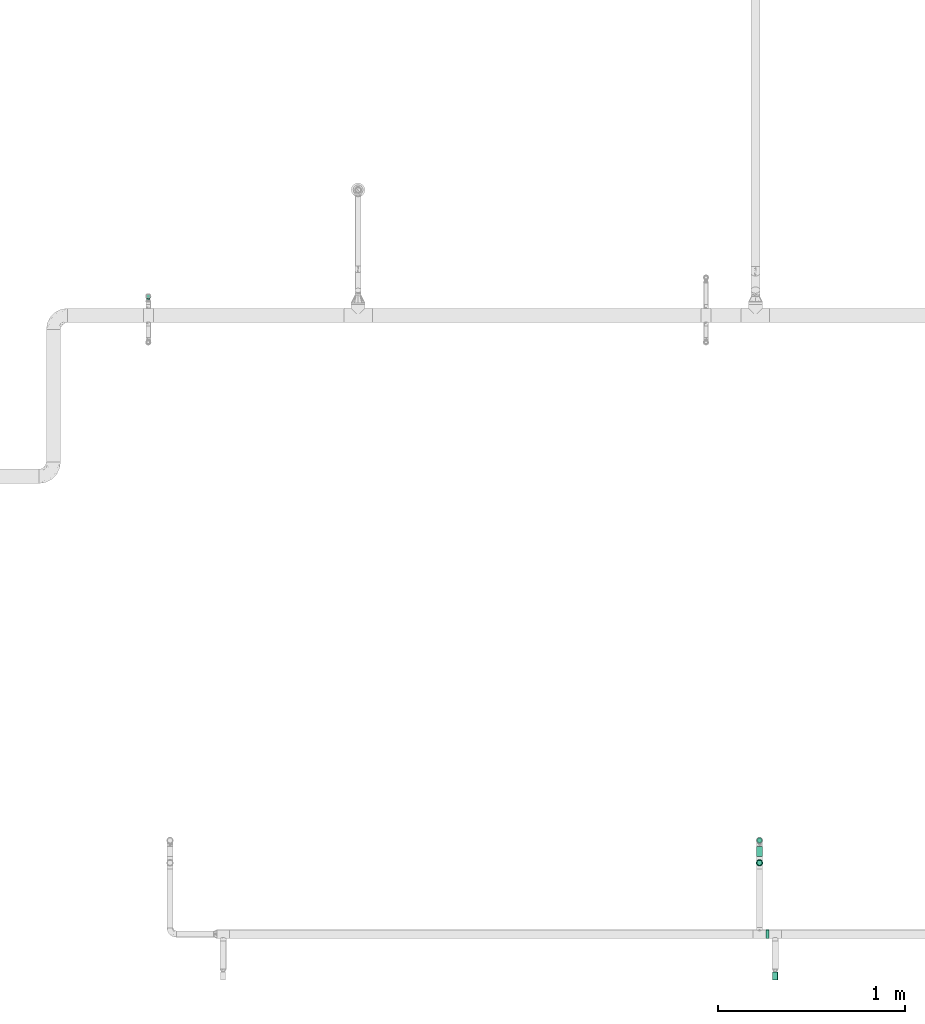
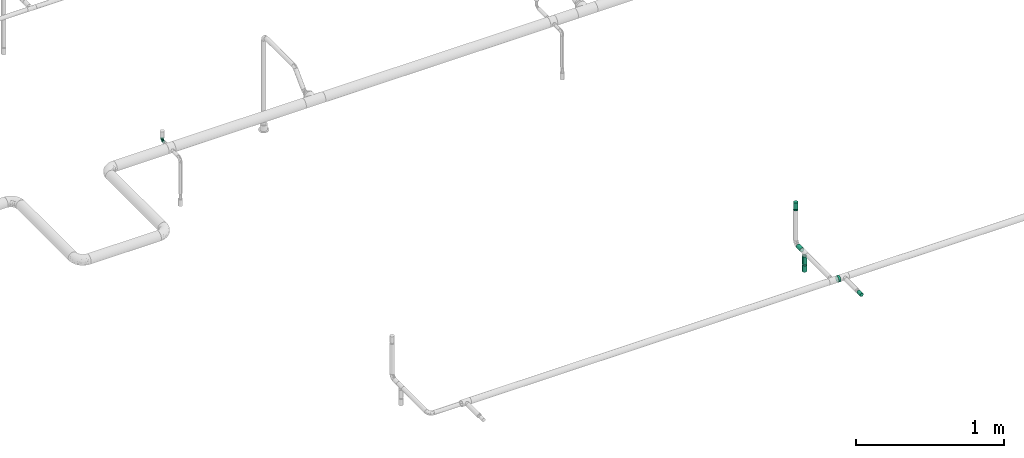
# One storey, part 23 of 51: 3 flow segments, 3 flow terminals, 2 flow fittings.
"""IFC2X3 building model written with IfcOpenShell, lengths in millimetres."""

from ifc_helpers import new_model, entity, si_unit, converted_unit, derived_unit, direction, frame, origin_with_axes, origin_2d_with_axis, place, context, subcontext, project, spatial, hollow_circle, extrude, open_shell, surface_model, source, transform, mapped, type_object, element, save


model = new_model("IFC2X3")

# Units and contexts
model_context = context("Model", 3, precision=0.01, world=frame((0.0, 4.29681676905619e-09, 0.0)), true_north=direction((4.01073788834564e-13, 1.0)))
plan_context = context("Plan", 3, precision=0.01, world=frame((0.0, 4.29681676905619e-09, 0.0)), true_north=direction((4.01073788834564e-13, 1.0)))
body_context = subcontext(model_context, "Body", "Model", "MODEL_VIEW")
ifc_project = project(units=[converted_unit("PLANEANGLEUNIT", "DEGREE", entity("IfcPositiveLengthMeasure", 0.0174532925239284), si_unit("PLANEANGLEUNIT", "RADIAN"), dimensions=[0, 0, 0, 0, 0, 0, 0]), si_unit("AREAUNIT", "SQUARE_METRE"), si_unit("LENGTHUNIT", "METRE", prefix="MILLI"), si_unit("MASSUNIT", "GRAM", prefix="KILO"), si_unit("POWERUNIT", "WATT"), si_unit("PRESSUREUNIT", "PASCAL"), si_unit("FORCEUNIT", "NEWTON", prefix="KILO"), si_unit("ELECTRICVOLTAGEUNIT", "VOLT"), si_unit("ELECTRICCURRENTUNIT", "AMPERE"), si_unit("THERMODYNAMICTEMPERATUREUNIT", "DEGREE_CELSIUS"), si_unit("TIMEUNIT", "SECOND"), si_unit("VOLUMEUNIT", "CUBIC_METRE"), derived_unit("LINEARVELOCITYUNIT", [(si_unit("LENGTHUNIT", "METRE"), 1), (si_unit("TIMEUNIT", "SECOND"), -1)]), derived_unit("VOLUMETRICFLOWRATEUNIT", [(si_unit("VOLUMEUNIT", "CUBIC_METRE"), 1), (si_unit("TIMEUNIT", "SECOND"), -1)]), derived_unit("THERMALTRANSMITTANCEUNIT", [(si_unit("POWERUNIT", "WATT"), 1), (si_unit("THERMODYNAMICTEMPERATUREUNIT", "KELVIN"), -1), (si_unit("AREAUNIT", "SQUARE_METRE"), -1)]), derived_unit("SOUNDPRESSUREUNIT", [(si_unit("PRESSUREUNIT", "PASCAL"), 1)])], contexts=[model_context, plan_context])

# Site, building, storey
site_placement = place(None, frame((0.0, -4.29681676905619e-09, 0.0), z_axis=(0.0, 0.0, 1.0), x_axis=(1.0, 0.0, 0.0)))
site = spatial("IfcSite", under=ifc_project, at=site_placement, Name="ENGM", CompositionType="ELEMENT")
building_placement = place(site_placement, frame((0.0, 4.29681676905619e-09, 0.0), z_axis=(0.0, 0.0, 1.0), x_axis=(1.0, 0.0, 0.0)))
building = spatial("IfcBuilding", under=site, at=building_placement, Name="TH", CompositionType="ELEMENT")
storey_placement = place(building_placement, frame((0.0, 0.0, 210200.0), z_axis=(0.0, 0.0, 1.0), x_axis=(1.0, 0.0, 0.0)))
storey = spatial("IfcBuildingStorey", under=building, at=storey_placement, Name="Nivå F - 0,7 m", CompositionType="ELEMENT", Elevation=210200.0)

# Flow fittings
pipe_fitting_type_1 = type_object("IfcPipeFittingType", Name="magi_pipe_fe_reducer_centric_short_NOR", PredefinedType="TRANSITION")
shared_shape_1 = source(origin_with_axes(), body_context, "Body", "SurfaceModel", [
    surface_model("IfcShellBasedSurfaceModel", [(14.4, 5.35, -9.26647), (14.4, 0.0, -10.7), (14.4, 2.76936, -10.33541), (14.4, 10.33541, -2.76936), (14.4, 7.56604, -7.56604), (14.4, 9.26647, -5.35), (14.4, -5.35, -9.26647), (14.4, -2.76936, -10.33541), (14.4, -7.56604, -7.56604), (14.4, -10.33541, -2.76936), (14.4, -9.26647, -5.35), (14.4, 10.33541, 2.76936), (14.4, 9.26647, 5.35), (14.4, 7.56604, 7.56604), (14.4, 2.76936, 10.33541), (14.4, 5.35, 9.26647), (14.4, -7.56604, 7.56604), (14.4, -2.76936, 10.33541), (14.4, -5.35, 9.26647), (12.4, 7.56604, 7.56604), (12.4, 9.26647, 5.35), (12.4, 10.33541, 2.76936), (12.4, -2.76936, 10.33541), (12.4, -7.56604, 7.56604), (12.4, -5.35, 9.26647), (12.4, -10.33541, 2.76936), (12.4, -9.26647, 5.35), (12.4, 0.0, 10.7), (12.4, -10.33541, -2.76936), (12.4, -10.7, 0.0), (12.4, -5.35, -9.26647), (12.4, 0.0, -10.7), (12.4, -2.76936, -10.33541), (12.4, 2.76936, -10.33541), (12.4, 10.33541, -2.76936), (12.4, 10.7, 0.0), (12.4, -9.26647, -5.35), (12.4, -7.56604, -7.56604), (14.4, -10.7, 0.0), (12.4, 5.35, -9.26647), (12.4, 7.56604, -7.56604), (12.4, 9.26647, -5.35), (14.4, 10.7, 0.0), (12.4, 5.35, 9.26647), (12.4, 2.76936, 10.33541), (14.4, 0.0, 10.7), (14.4, -9.26647, 5.35), (14.4, -10.33541, 2.76936), (-2.0, 11.9501, 11.9501), (-2.0, 0.0, 16.9), (-2.0, 4.37404, 16.32415), (-2.0, 8.45, 14.63583), (-2.0, 14.63583, 8.45), (-2.0, 16.32415, 4.37404), (-2.0, -16.32415, 4.37404), (-2.0, -8.45, 14.63583), (-2.0, -14.63583, 8.45), (-2.0, -11.9501, 11.9501), (-2.0, -4.37404, 16.32415), (-2.0, -16.32415, -4.37404), (-2.0, -16.9, 0.0), (-2.0, -8.45, -14.63583), (-2.0, 16.32415, -4.37404), (-2.0, 11.9501, -11.9501), (-2.0, 14.63583, -8.45), (-2.0, 8.45, -14.63583), (-2.0, 4.37404, -16.32415), (-2.0, 0.0, -16.9), (-2.0, -11.9501, -11.9501), (-2.0, -14.63583, -8.45), (-2.0, -4.37404, -16.32415), (-2.0, 16.9, 0.0), (0.0, 4.37404, -16.32415), (0.0, 8.45, -14.63583), (0.0, 11.9501, -11.9501), (0.0, 0.0, -16.9), (0.0, 16.32415, -4.37404), (0.0, 16.32415, 4.37404), (0.0, 14.63583, -8.45), (0.0, -8.45, -14.63583), (0.0, -4.37404, -16.32415), (0.0, -11.9501, -11.9501), (0.0, -16.32415, -4.37404), (0.0, -14.63583, -8.45), (0.0, -16.32415, 4.37404), (0.0, 16.9, 0.0), (0.0, 14.63583, 8.45), (0.0, 11.9501, 11.9501), (0.0, 4.37404, 16.32415), (0.0, 8.45, 14.63583), (0.0, 0.0, 16.9), (0.0, -14.63583, 8.45), (0.0, -16.9, 0.0), (0.0, -8.45, 14.63583), (0.0, -11.9501, 11.9501), (0.0, -4.37404, 16.32415), (12.4, 9.3625, -2.31662), (0.0, 14.42505, -5.97505), (0.0, 15.66253, -2.98753), (12.4, -6.6875, -6.94985), (0.0, -13.18758, -8.96258), (0.0, 2.98753, -15.66253), (12.4, 0.0, -9.26647), (12.4, 6.6875, -6.94985), (0.0, 8.96258, -13.18758), (12.4, -9.3625, -2.31662), (0.0, -15.66253, -2.98753), (0.0, -14.42505, -5.97505), (0.0, 5.97505, -14.42505), (0.0, -2.98753, -15.66253), (0.0, -8.96258, -13.18758), (0.0, 13.18758, -8.96258), (12.4, 8.025, -4.63324), (12.4, -2.675, -9.26647), (12.4, 2.675, -9.26647), (0.0, -5.97505, -14.42505), (12.4, -8.025, -4.63324), (12.4, -9.3625, 2.31662), (0.0, -14.42505, 5.97505), (0.0, -15.66253, 2.98753), (12.4, 6.6875, 6.94985), (0.0, 13.18758, 8.96258), (0.0, -2.98753, 15.66253), (12.4, 0.0, 9.26647), (12.4, -6.6875, 6.94985), (0.0, -8.96258, 13.18758), (12.4, 9.3625, 2.31662), (0.0, 15.66253, 2.98753), (0.0, 14.42505, 5.97505), (0.0, -5.97505, 14.42505), (0.0, 2.98753, 15.66253), (0.0, 8.96258, 13.18758), (0.0, -13.18758, 8.96258), (12.4, -8.025, 4.63324), (12.4, 2.675, 9.26647), (12.4, -2.675, 9.26647), (0.0, 5.97505, 14.42505), (12.4, 8.025, 4.63324)], [open_shell([[[0, 1, 2]], [[3, 0, 4]], [[3, 4, 5]], [[1, 6, 7]], [[1, 0, 6]], [[8, 9, 10]], [[9, 8, 6]], [[11, 12, 13]], [[14, 13, 15]], [[16, 17, 18]], [[19, 20, 21]], [[22, 23, 24]], [[23, 22, 25]], [[23, 25, 26]], [[22, 27, 25]], [[25, 28, 29]], [[30, 31, 32]], [[30, 28, 33]], [[33, 31, 30]], [[34, 21, 35]], [[28, 9, 29]], [[36, 10, 28]], [[6, 37, 30]], [[36, 37, 8]], [[7, 30, 32]], [[28, 10, 9]], [[9, 38, 29]], [[7, 6, 30]], [[8, 37, 6]], [[8, 10, 36]], [[1, 7, 32]], [[32, 31, 1]], [[33, 2, 31]], [[39, 0, 33]], [[5, 40, 41]], [[39, 40, 4]], [[3, 41, 34]], [[39, 4, 0]], [[0, 2, 33]], [[42, 3, 34]], [[5, 41, 3]], [[5, 4, 40]], [[35, 42, 34]], [[31, 2, 1]], [[21, 11, 35]], [[20, 12, 21]], [[15, 19, 43]], [[20, 19, 13]], [[14, 43, 44]], [[21, 12, 11]], [[11, 42, 35]], [[14, 15, 43]], [[13, 19, 15]], [[13, 12, 20]], [[45, 14, 44]], [[44, 27, 45]], [[22, 17, 27]], [[24, 18, 22]], [[46, 23, 26]], [[24, 23, 16]], [[47, 26, 25]], [[24, 16, 18]], [[18, 17, 22]], [[38, 47, 25]], [[46, 26, 47]], [[46, 16, 23]], [[29, 38, 25]], [[27, 17, 45]], [[48, 49, 50]], [[48, 50, 51]], [[48, 52, 53]], [[48, 53, 49]], [[49, 53, 54]], [[55, 56, 57]], [[55, 58, 49]], [[56, 55, 49]], [[49, 54, 56]], [[54, 59, 60]], [[54, 53, 61]], [[53, 62, 63]], [[63, 62, 64]], [[63, 65, 66]], [[61, 53, 63]], [[67, 63, 66]], [[59, 68, 69]], [[68, 59, 61]], [[61, 67, 70]], [[59, 54, 61]], [[63, 67, 61]], [[53, 71, 62]], [[72, 73, 74]], [[75, 72, 74]], [[74, 76, 77]], [[76, 74, 78]], [[74, 77, 79]], [[75, 79, 80]], [[75, 74, 79]], [[81, 82, 83]], [[82, 81, 79]], [[79, 84, 82]], [[77, 76, 85]], [[77, 86, 87]], [[77, 87, 88]], [[88, 84, 79]], [[88, 87, 89]], [[84, 88, 90]], [[90, 91, 84]], [[92, 82, 84]], [[91, 93, 94]], [[91, 90, 93]], [[93, 90, 95]], [[79, 77, 88]], [[59, 82, 60]], [[69, 83, 59]], [[79, 68, 61]], [[69, 68, 81]], [[80, 61, 70]], [[59, 83, 82]], [[82, 92, 60]], [[80, 79, 61]], [[81, 68, 79]], [[81, 83, 69]], [[75, 80, 70]], [[70, 67, 75]], [[66, 72, 67]], [[65, 73, 66]], [[78, 63, 64]], [[65, 63, 74]], [[76, 64, 62]], [[65, 74, 73]], [[73, 72, 66]], [[85, 76, 62]], [[78, 64, 76]], [[78, 74, 63]], [[71, 85, 62]], [[67, 72, 75]], [[53, 77, 71]], [[52, 86, 53]], [[89, 48, 51]], [[52, 48, 87]], [[88, 51, 50]], [[53, 86, 77]], [[77, 85, 71]], [[88, 89, 51]], [[87, 48, 89]], [[87, 86, 52]], [[90, 88, 50]], [[50, 49, 90]], [[58, 95, 49]], [[55, 93, 58]], [[91, 57, 56]], [[55, 57, 94]], [[84, 56, 54]], [[55, 94, 93]], [[93, 95, 58]], [[92, 84, 54]], [[91, 56, 84]], [[91, 94, 57]], [[60, 92, 54]], [[49, 95, 90]], [[43, 24, 35]], [[35, 24, 30]], [[30, 39, 35]], [[30, 24, 29]], [[87, 74, 92]], [[75, 92, 74]], [[81, 92, 75]], [[74, 87, 85]], [[96, 97, 98]], [[81, 99, 100]], [[101, 102, 75]], [[98, 85, 35]], [[74, 103, 104]], [[104, 103, 39]], [[105, 106, 107]], [[39, 108, 104]], [[102, 109, 75]], [[110, 99, 81]], [[35, 96, 98]], [[103, 111, 112]], [[109, 102, 113]], [[29, 92, 106]], [[102, 101, 114]], [[110, 115, 30]], [[96, 112, 97]], [[107, 116, 105]], [[29, 106, 105]], [[113, 115, 109]], [[30, 115, 113]], [[116, 107, 100]], [[108, 39, 114]], [[111, 103, 74]], [[111, 97, 112]], [[99, 110, 30]], [[116, 100, 99]], [[101, 108, 114]], [[117, 118, 119]], [[87, 120, 121]], [[122, 123, 90]], [[119, 92, 29]], [[94, 124, 125]], [[125, 124, 24]], [[126, 127, 128]], [[24, 129, 125]], [[123, 130, 90]], [[131, 120, 87]], [[29, 117, 119]], [[124, 132, 133]], [[130, 123, 134]], [[35, 85, 127]], [[123, 122, 135]], [[131, 136, 43]], [[117, 133, 118]], [[128, 137, 126]], [[35, 127, 126]], [[134, 136, 130]], [[43, 136, 134]], [[137, 128, 121]], [[129, 24, 135]], [[132, 124, 94]], [[132, 118, 133]], [[120, 131, 43]], [[137, 121, 120]], [[122, 129, 135]], [[6, 0, 3]], [[46, 6, 3]], [[6, 46, 9]], [[11, 3, 42]], [[3, 13, 46]], [[14, 45, 13]], [[46, 13, 45]], [[9, 47, 38]], [[46, 47, 9]], [[17, 16, 46]], [[45, 17, 46]], [[3, 11, 13]], [[27, 44, 43]], [[27, 43, 19]], [[27, 19, 25]], [[34, 25, 19]], [[34, 19, 21]], [[28, 25, 34]], [[33, 34, 41]], [[40, 39, 33]], [[40, 33, 41]], [[28, 34, 33]], [[28, 37, 36]], [[37, 28, 30]], [[90, 87, 92]], [[92, 94, 90]]])]),
])
flow_fitting_1_placement = place(storey_placement, frame((903366.02472, 481524.00985, 2982.64799999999), z_axis=(0.0, 1.0, 0.0), x_axis=(0.0, 0.0, 1.0)))
element("IfcFlowFitting", 1, at=flow_fitting_1_placement, inside=storey, type_object=pipe_fitting_type_1, Name="magi_pipe_fe_reducer_centric_short_NOR", context=body_context, shape_type="MappedRepresentation", body=[
    mapped(shared_shape_1, transform((0.0, 0.0, 0.0), scale=1.0)),
])
pipe_fitting_type_2 = type_object("IfcPipeFittingType", Name="magi_pipe_fe_elbow_short_001", PredefinedType="BEND")
shared_shape_2 = source(origin_with_axes(), body_context, "Body", "SurfaceModel", [
    surface_model("IfcShellBasedSurfaceModel", [(-21.4, 2.76936, -10.33541), (-21.4, 0.0, -10.7), (-21.4, 7.56604, -7.56604), (-21.4, 5.35, -9.26647), (-21.4, 10.33541, -2.76936), (-21.4, 9.26647, -5.35), (-21.4, -7.56604, 7.56604), (-21.4, -5.35, -9.26647), (-21.4, -5.35, 9.26647), (-21.4, -7.56604, -7.56604), (-21.4, -9.26647, -5.35), (-21.4, -2.76936, -10.33541), (-21.4, -10.33541, -2.76936), (-21.4, -10.7, 0.0), (-21.4, 10.7, 0.0), (-21.4, 10.33541, 2.76936), (-21.4, 9.26647, 5.35), (-21.4, 7.56604, 7.56604), (-21.4, 5.35, 9.26647), (-21.4, 2.76936, 10.33541), (-21.4, -10.33541, 2.76936), (-21.4, -9.26647, 5.35), (-21.4, -2.76936, 10.33541), (-21.4, 0.0, 10.7), (-7.56604, 21.4, -7.56604), (0.0, 21.4, -10.7), (-2.76936, 21.4, -10.33541), (-5.35, 21.4, -9.26647), (-9.26647, 21.4, -5.35), (-10.33541, 21.4, -2.76936), (10.7, 21.4, 0.0), (5.35, 21.4, -9.26647), (9.26647, 21.4, -5.35), (7.56604, 21.4, -7.56604), (2.76936, 21.4, -10.33541), (10.33541, 21.4, -2.76936), (-10.33541, 21.4, 2.76936), (5.35, 21.4, 9.26647), (-7.56604, 21.4, 7.56604), (-9.26647, 21.4, 5.35), (-5.35, 21.4, 9.26647), (-2.76936, 21.4, 10.33541), (9.26647, 21.4, 5.35), (10.33541, 21.4, 2.76936), (7.56604, 21.4, 7.56604), (0.0, 21.4, 10.7), (2.76936, 21.4, 10.33541), (-10.7, 21.4, 0.0), (-17.99408, -9.78739, 0.0), (-9.96908, -7.6371, 0.0), (-9.09404, -6.9243, 4.95785), (-14.48689, -7.04149, 7.24979), (5.63065, 8.24892, 6.28438), (2.06258, 3.09852, 6.68299), (3.46206, 2.41265, 0.0), (0.98571, 10.3211, 10.08431), (-14.58817, -8.87478, 0.0), (5.00363, 14.04705, 8.8538), (-11.43216, -3.30045, 9.33143), (7.6371, 9.96908, 0.0), (8.87478, 14.58817, 0.0), (-7.84024, 13.84213, 8.94205), (-3.62699, 16.02976, 10.31804), (-15.33449, 3.33478, 10.44017), (-7.99137, -0.64527, 9.75219), (-12.26698, 17.61698, 0.0), (-13.83396, 13.83396, 0.0), (-5.22925, -4.43288, 5.66596), (6.39942, 5.35, 0.0), (-15.15468, 10.16047, 6.44408), (-10.16467, 10.01422, 9.23503), (9.78739, 17.99408, 0.0), (-7.22951, 3.98894, 10.64848), (-2.16379, -1.00373, 6.95774), (0.52471, -0.52471, 0.0), (-2.94157, 6.97816, 10.50675), (-17.61698, 12.26698, 0.0), (-2.41265, -3.46206, 0.0), (-5.35, -6.39942, 0.0), (-8.83498, -0.07405, -10.11828), (-2.16379, -1.00373, -6.95774), (-5.8406, -4.06158, -6.57779), (-7.84024, 13.84213, -8.94205), (-15.33449, 3.33478, -10.44017), (-11.43216, -3.30045, -9.33143), (-15.15468, 10.16047, -6.44408), (-7.22951, 3.98894, -10.64848), (-10.16467, 10.01422, -9.23503), (2.06258, 3.09852, -6.68299), (-2.94157, 6.97816, -10.50675), (-14.48689, -7.04149, -7.24979), (5.00363, 14.04705, -8.8538), (-3.62699, 16.02976, -10.31804), (0.98571, 10.3211, -10.08431), (5.63065, 8.24892, -6.28438), (-9.09404, -6.9243, -4.95785)], [open_shell([[[0, 1, 2]], [[3, 0, 2]], [[4, 5, 2]], [[6, 1, 7]], [[1, 8, 2]], [[9, 10, 7]], [[1, 11, 7]], [[12, 13, 10]], [[7, 10, 13]], [[13, 6, 7]], [[4, 2, 14]], [[8, 15, 2]], [[16, 15, 17]], [[8, 18, 15]], [[17, 15, 18]], [[18, 8, 19]], [[20, 21, 13]], [[13, 21, 6]], [[22, 23, 8]], [[6, 8, 1]], [[8, 23, 19]], [[15, 14, 2]], [[24, 25, 26]], [[24, 26, 27]], [[24, 28, 29]], [[24, 29, 25]], [[25, 29, 30]], [[31, 32, 33]], [[31, 34, 25]], [[32, 30, 35]], [[30, 32, 31]], [[25, 30, 31]], [[29, 36, 30]], [[30, 36, 37]], [[38, 36, 39]], [[36, 40, 37]], [[40, 36, 38]], [[41, 37, 40]], [[30, 42, 43]], [[44, 42, 30]], [[37, 45, 46]], [[30, 37, 44]], [[41, 45, 37]], [[29, 47, 36]], [[21, 20, 48]], [[49, 50, 51]], [[52, 53, 54]], [[52, 55, 53]], [[51, 6, 56]], [[6, 21, 56]], [[41, 57, 45]], [[23, 51, 58]], [[51, 22, 8]], [[57, 59, 60]], [[61, 55, 62]], [[63, 58, 64]], [[65, 66, 61]], [[51, 23, 22]], [[23, 58, 19]], [[67, 58, 50]], [[54, 68, 52]], [[63, 17, 18]], [[20, 13, 48]], [[14, 15, 69]], [[16, 17, 63]], [[62, 40, 38]], [[19, 58, 63]], [[16, 69, 15]], [[63, 18, 19]], [[59, 52, 68]], [[60, 44, 37]], [[57, 46, 45]], [[69, 70, 66]], [[52, 59, 57]], [[39, 62, 38]], [[60, 42, 44]], [[37, 57, 60]], [[37, 46, 57]], [[6, 51, 8]], [[43, 71, 30]], [[51, 56, 49]], [[70, 69, 72]], [[73, 74, 53]], [[75, 72, 73]], [[16, 63, 69]], [[47, 65, 36]], [[42, 71, 43]], [[55, 57, 62]], [[52, 57, 55]], [[41, 40, 62]], [[60, 71, 42]], [[36, 61, 39]], [[48, 56, 21]], [[61, 62, 39]], [[62, 57, 41]], [[69, 63, 72]], [[53, 75, 73]], [[69, 66, 76]], [[67, 64, 58]], [[75, 53, 55]], [[67, 77, 73]], [[55, 61, 75]], [[70, 75, 61]], [[50, 49, 78]], [[67, 50, 78]], [[51, 50, 58]], [[77, 74, 73]], [[73, 72, 64]], [[67, 78, 77]], [[73, 64, 67]], [[63, 64, 72]], [[36, 65, 61]], [[75, 70, 72]], [[14, 69, 76]], [[66, 70, 61]], [[53, 74, 54]], [[79, 80, 81]], [[65, 29, 82]], [[3, 2, 83]], [[0, 84, 1]], [[4, 14, 85]], [[10, 48, 12]], [[83, 5, 85]], [[85, 5, 4]], [[86, 85, 87]], [[83, 86, 79]], [[83, 84, 0]], [[48, 13, 12]], [[80, 77, 81]], [[88, 80, 89]], [[10, 9, 56]], [[7, 11, 90]], [[91, 31, 60]], [[9, 7, 90]], [[90, 11, 1]], [[84, 90, 1]], [[9, 90, 56]], [[28, 92, 82]], [[5, 83, 2]], [[85, 14, 76]], [[80, 88, 74]], [[82, 66, 65]], [[93, 82, 92]], [[28, 82, 29]], [[28, 24, 92]], [[24, 27, 92]], [[71, 60, 32]], [[91, 92, 26]], [[56, 48, 10]], [[35, 30, 71]], [[27, 26, 92]], [[94, 88, 93]], [[25, 91, 26]], [[31, 91, 34]], [[83, 0, 3]], [[94, 93, 91]], [[33, 60, 31]], [[89, 93, 88]], [[34, 91, 25]], [[71, 32, 35]], [[92, 91, 93]], [[59, 91, 60]], [[86, 83, 85]], [[95, 78, 49]], [[33, 32, 60]], [[66, 87, 85]], [[94, 59, 68]], [[89, 80, 86]], [[49, 56, 90]], [[94, 54, 88]], [[59, 94, 91]], [[95, 90, 84]], [[87, 89, 86]], [[82, 93, 89]], [[81, 78, 95]], [[90, 95, 49]], [[81, 95, 84]], [[79, 81, 84]], [[82, 87, 66]], [[83, 79, 84]], [[80, 79, 86]], [[77, 80, 74]], [[77, 78, 81]], [[47, 29, 65]], [[76, 66, 85]], [[89, 87, 82]], [[54, 94, 68]], [[54, 74, 88]]])]),
])
flow_fitting_2_placement = place(storey_placement, frame((900100.0, 484431.46933, 2933.0), z_axis=(-1.0, 0.0, 0.0), x_axis=(0.0, 0.0, -1.0)))
element("IfcFlowFitting", 2, at=flow_fitting_2_placement, inside=storey, type_object=pipe_fitting_type_2, Name="magi_pipe_fe_elbow_short_001", context=body_context, shape_type="MappedRepresentation", body=[
    mapped(shared_shape_2, transform((0.0, 0.0, 0.0), scale=1.0)),
])

# Flow segments
pipe_segment_type = type_object("IfcPipeSegmentType", Name="Stålrør normaltykke", PredefinedType="RIGIDSEGMENT")
shared_shape_3 = source(origin_with_axes(), body_context, "Body", "SweptSolid", [
    extrude(hollow_circle(Radius=24.1, WallThickness=2.0, at=origin_2d_with_axis()), frame((0.0, 0.0, 0.0), z_axis=(1.0, 0.0, 0.0), x_axis=(0.0, 1.0, 0.0)), (0.0, 0.0, 1.0), 16.2),
])
flow_segment_1_placement = place(storey_placement, frame((903399.82472, 481023.05237, 2700.0), z_axis=(0.0, 0.0, 1.0), x_axis=(1.0, 0.0, 0.0)))
element("IfcFlowSegment", 3, at=flow_segment_1_placement, inside=storey, type_object=pipe_segment_type, Name="Stålrør normaltykke", context=body_context, shape_type="MappedRepresentation", body=[
    mapped(shared_shape_3, transform((0.0, 0.0, 0.0), scale=1.0)),
])
shared_shape_4 = source(origin_with_axes(), body_context, "Body", "SweptSolid", [
    extrude(hollow_circle(Radius=16.9, WallThickness=2.0, at=origin_2d_with_axis()), frame((0.0, 0.0, 0.0), z_axis=(1.0, 0.0, 0.0), x_axis=(0.0, 1.0, 0.0)), (0.0, 0.0, 1.0), 65.3),
])
flow_segment_2_placement = place(storey_placement, frame((903366.02472, 481404.39138, 2609.35200000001), z_axis=(0.0, -1.0, 0.0), x_axis=(0.0, 0.0, 1.0)))
element("IfcFlowSegment", 4, at=flow_segment_2_placement, inside=storey, type_object=pipe_segment_type, Name="Stålrør normaltykke", context=body_context, shape_type="MappedRepresentation", body=[
    mapped(shared_shape_4, transform((0.0, 0.0, 0.0), scale=1.0)),
])
shared_shape_5 = source(origin_with_axes(), body_context, "Body", "SweptSolid", [
    extrude(hollow_circle(Radius=16.9, WallThickness=2.0, at=origin_2d_with_axis()), frame((0.0, 0.0, 0.0), z_axis=(1.0, 0.0, 0.0), x_axis=(0.0, 1.0, 0.0)), (0.0, 0.0, 1.0), 52.0),
])
flow_segment_3_placement = place(storey_placement, frame((903366.02472, 481438.19138, 2700.0), z_axis=(0.0, 0.0, 1.0), x_axis=(0.0, 1.0, 0.0)))
element("IfcFlowSegment", 5, at=flow_segment_3_placement, inside=storey, type_object=pipe_segment_type, Name="Stålrør normaltykke", context=body_context, shape_type="MappedRepresentation", body=[
    mapped(shared_shape_5, transform((0.0, 0.0, 0.0), scale=1.0)),
])

# Flow terminals
fire_suppression_terminal_type_1 = type_object("IfcFireSuppressionTerminalType", Name="SP-15-K80-68DGR-STD-STÅENDE", PredefinedType="NOTDEFINED")
shared_shape_6 = source(origin_with_axes(), body_context, "Body", "SurfaceModel", [
    surface_model("IfcShellBasedSurfaceModel", [(4.1411, -15.45481, 53.0), (8.0, -13.85641, 53.0), (11.31371, -11.31371, 53.0), (-8.0, -13.85641, 53.0), (15.45481, -4.1411, 53.0), (16.0, 0.0, 53.0), (13.85641, -8.0, 53.0), (0.0, -16.0, 53.0), (-4.1411, -15.45481, 53.0), (-13.85641, -8.0, 53.0), (-11.31371, -11.31371, 53.0), (-15.45481, -4.1411, 53.0), (15.45481, 4.1411, 53.0), (13.85641, 8.0, 53.0), (11.31371, 11.31371, 53.0), (-4.1411, 15.45481, 53.0), (8.0, 13.85641, 53.0), (4.1411, 15.45481, 53.0), (0.0, 16.0, 53.0), (-13.85641, 8.0, 53.0), (-15.45481, 4.1411, 53.0), (-16.0, 0.0, 53.0), (-11.31371, 11.31371, 53.0), (-8.0, 13.85641, 53.0), (0.0, 16.0, 0.0), (4.1411, 15.45481, 0.0), (8.0, 13.85641, 0.0), (-4.1411, 15.45481, 0.0), (11.31371, 11.31371, 0.0), (13.85641, 8.0, 0.0), (15.45481, 4.1411, 0.0), (-15.45481, -4.1411, 0.0), (-11.31371, 11.31371, 0.0), (-8.0, 13.85641, 0.0), (-13.85641, 8.0, 0.0), (-15.45481, 4.1411, 0.0), (-16.0, 0.0, 0.0), (4.1411, -15.45481, 0.0), (16.0, 0.0, 0.0), (15.45481, -4.1411, 0.0), (13.85641, -8.0, 0.0), (11.31371, -11.31371, 0.0), (8.0, -13.85641, 0.0), (-8.0, -13.85641, 0.0), (-13.85641, -8.0, 0.0), (-11.31371, -11.31371, 0.0), (0.0, -16.0, 0.0), (-4.1411, -15.45481, 0.0)], [open_shell([[[0, 1, 2]], [[3, 0, 2]], [[4, 5, 2]], [[4, 2, 6]], [[3, 2, 5]], [[7, 3, 8]], [[7, 0, 3]], [[3, 9, 10]], [[9, 3, 11]], [[5, 11, 3]], [[5, 12, 11]], [[12, 13, 14]], [[15, 12, 14]], [[16, 17, 18]], [[14, 16, 15]], [[18, 15, 16]], [[11, 19, 20]], [[21, 11, 20]], [[22, 15, 23]], [[15, 22, 19]], [[19, 11, 15]], [[11, 12, 15]], [[24, 25, 26]], [[27, 24, 26]], [[28, 29, 30]], [[27, 26, 28]], [[27, 28, 31]], [[27, 32, 33]], [[32, 27, 34]], [[34, 31, 35]], [[31, 34, 27]], [[35, 31, 36]], [[28, 30, 31]], [[37, 38, 39]], [[37, 39, 40]], [[41, 42, 37]], [[41, 37, 40]], [[38, 37, 43]], [[44, 43, 45]], [[43, 44, 31]], [[43, 46, 47]], [[43, 31, 38]], [[37, 46, 43]], [[38, 31, 30]], [[11, 31, 44]], [[45, 9, 44]], [[3, 43, 47]], [[45, 43, 10]], [[8, 47, 46]], [[31, 21, 36]], [[31, 11, 21]], [[44, 9, 11]], [[45, 10, 9]], [[3, 10, 43]], [[47, 8, 3]], [[46, 7, 8]], [[0, 37, 42]], [[41, 1, 42]], [[6, 40, 39]], [[41, 40, 2]], [[4, 39, 38]], [[37, 0, 7]], [[42, 1, 0]], [[41, 2, 1]], [[40, 6, 2]], [[4, 6, 39]], [[38, 5, 4]], [[37, 7, 46]], [[12, 38, 30]], [[13, 30, 29]], [[16, 26, 25]], [[17, 25, 24]], [[30, 13, 12]], [[12, 5, 38]], [[28, 14, 13]], [[28, 26, 14]], [[14, 26, 16]], [[25, 17, 16]], [[28, 13, 29]], [[24, 18, 17]], [[15, 27, 33]], [[32, 23, 33]], [[19, 34, 35]], [[32, 34, 22]], [[20, 35, 36]], [[27, 15, 18]], [[33, 23, 15]], [[32, 22, 23]], [[34, 19, 22]], [[20, 19, 35]], [[36, 21, 20]], [[27, 18, 24]]])]),
])
flow_terminal_1_placement = place(storey_placement, frame((903366.02472, 481524.00985, 2992.0), z_axis=(0.0, 0.0, 1.0), x_axis=(1.0, 0.0, 0.0)))
element("IfcFlowTerminal", 6, at=flow_terminal_1_placement, inside=storey, type_object=fire_suppression_terminal_type_1, Name="SP-15-K80-68DGR-STD-STÅENDE", context=body_context, shape_type="MappedRepresentation", body=[
    mapped(shared_shape_6, transform((0.0, 0.0, 0.0), scale=1.0)),
])
fire_suppression_terminal_type_2 = type_object("IfcFireSuppressionTerminalType", Name="SP-15-K80-68DGR-STD-HIMLING", PredefinedType="NOTDEFINED")
flow_terminal_2_placement = place(storey_placement, frame((903366.02472, 481404.39138, 2600.0), z_axis=(0.0, 0.0, -1.0), x_axis=(-1.0, 0.0, 0.0)))
element("IfcFlowTerminal", 7, at=flow_terminal_2_placement, inside=storey, type_object=fire_suppression_terminal_type_2, Name="SP-15-K80-68DGR-STD-HIMLING", context=body_context, shape_type="MappedRepresentation", body=[
    mapped(shared_shape_6, transform((0.0, 0.0, 0.0), scale=1.0)),
])
fire_suppression_terminal_type_3 = type_object("IfcFireSuppressionTerminalType", Name="XW-15-K80-68DGR-QR", PredefinedType="NOTDEFINED")
shared_shape_7 = source(origin_with_axes(), body_context, "Body", "SurfaceModel", [
    surface_model("IfcShellBasedSurfaceModel", [(42.0, 3.62347, -13.52296), (42.0, 7.0, -12.12436), (42.0, 9.89949, -9.89949), (42.0, -13.52296, -3.62347), (42.0, 13.52296, -3.62347), (42.0, 12.12436, -7.0), (42.0, 13.52296, 3.62347), (42.0, 0.0, -14.0), (42.0, -7.0, -12.12436), (42.0, -3.62347, -13.52296), (42.0, -9.89949, -9.89949), (42.0, -12.12436, -7.0), (42.0, 14.0, 0.0), (42.0, 12.12436, 7.0), (42.0, 9.89949, 9.89949), (42.0, 7.0, 12.12436), (42.0, 3.62347, 13.52296), (42.0, 0.0, 14.0), (42.0, -3.62347, 13.52296), (42.0, -13.52296, 3.62347), (42.0, -14.0, 0.0), (42.0, -12.12436, 7.0), (42.0, -9.89949, 9.89949), (42.0, -7.0, 12.12436), (0.0, 0.0, 14.0), (0.0, 3.62347, 13.52296), (0.0, 7.0, 12.12436), (0.0, -3.62347, 13.52296), (0.0, 9.89949, 9.89949), (0.0, 12.12436, 7.0), (0.0, 13.52296, 3.62347), (0.0, -9.89949, 9.89949), (0.0, -7.0, 12.12436), (0.0, -12.12436, 7.0), (0.0, -13.52296, -3.62347), (0.0, -13.52296, 3.62347), (0.0, -14.0, 0.0), (0.0, 13.52296, -3.62347), (0.0, 9.89949, -9.89949), (0.0, 12.12436, -7.0), (0.0, 7.0, -12.12436), (0.0, 3.62347, -13.52296), (0.0, -9.89949, -9.89949), (0.0, -12.12436, -7.0), (0.0, -7.0, -12.12436), (0.0, 0.0, -14.0), (0.0, -3.62347, -13.52296), (0.0, 14.0, 0.0)], [open_shell([[[0, 1, 2]], [[3, 0, 2]], [[3, 2, 4]], [[4, 2, 5]], [[6, 3, 4]], [[7, 8, 9]], [[7, 0, 8]], [[10, 3, 11]], [[3, 10, 8]], [[0, 3, 8]], [[4, 12, 6]], [[6, 13, 14]], [[6, 14, 15]], [[15, 16, 17]], [[15, 17, 6]], [[6, 17, 18]], [[3, 19, 20]], [[21, 19, 3]], [[22, 18, 23]], [[18, 22, 21]], [[18, 21, 3]], [[3, 6, 18]], [[24, 25, 26]], [[27, 24, 26]], [[28, 29, 30]], [[28, 30, 26]], [[27, 26, 30]], [[27, 31, 32]], [[31, 27, 33]], [[33, 34, 35]], [[36, 35, 34]], [[27, 34, 33]], [[27, 30, 37]], [[34, 27, 37]], [[38, 37, 39]], [[38, 40, 41]], [[37, 38, 34]], [[41, 34, 38]], [[34, 42, 43]], [[42, 34, 44]], [[44, 45, 46]], [[44, 34, 41]], [[41, 45, 44]], [[37, 30, 47]], [[3, 34, 43]], [[42, 11, 43]], [[8, 44, 46]], [[42, 44, 10]], [[9, 46, 45]], [[34, 20, 36]], [[34, 3, 20]], [[43, 11, 3]], [[42, 10, 11]], [[8, 10, 44]], [[46, 9, 8]], [[45, 7, 9]], [[0, 41, 40]], [[38, 1, 40]], [[5, 39, 37]], [[38, 39, 2]], [[4, 37, 47]], [[41, 0, 7]], [[40, 1, 0]], [[38, 2, 1]], [[39, 5, 2]], [[4, 5, 37]], [[47, 12, 4]], [[41, 7, 45]], [[6, 47, 30]], [[29, 13, 30]], [[15, 26, 25]], [[16, 25, 24]], [[30, 13, 6]], [[6, 12, 47]], [[14, 28, 15]], [[14, 13, 29]], [[15, 28, 26]], [[25, 16, 15]], [[14, 29, 28]], [[24, 17, 16]], [[18, 27, 32]], [[31, 23, 32]], [[21, 33, 35]], [[31, 33, 22]], [[19, 35, 36]], [[27, 18, 17]], [[32, 23, 18]], [[31, 22, 23]], [[33, 21, 22]], [[19, 21, 35]], [[36, 20, 19]], [[27, 17, 24]]])]),
])
flow_terminal_3_placement = place(storey_placement, frame((903449.82472, 480820.00437, 2700.0), z_axis=(0.0, 0.0, 1.0), x_axis=(0.0, -1.0, 0.0)))
element("IfcFlowTerminal", 8, at=flow_terminal_3_placement, inside=storey, type_object=fire_suppression_terminal_type_3, Name="XW-15-K80-68DGR-QR", context=body_context, shape_type="MappedRepresentation", body=[
    mapped(shared_shape_7, transform((0.0, 0.0, 0.0), scale=1.0)),
])

save(model, "model.ifc")
